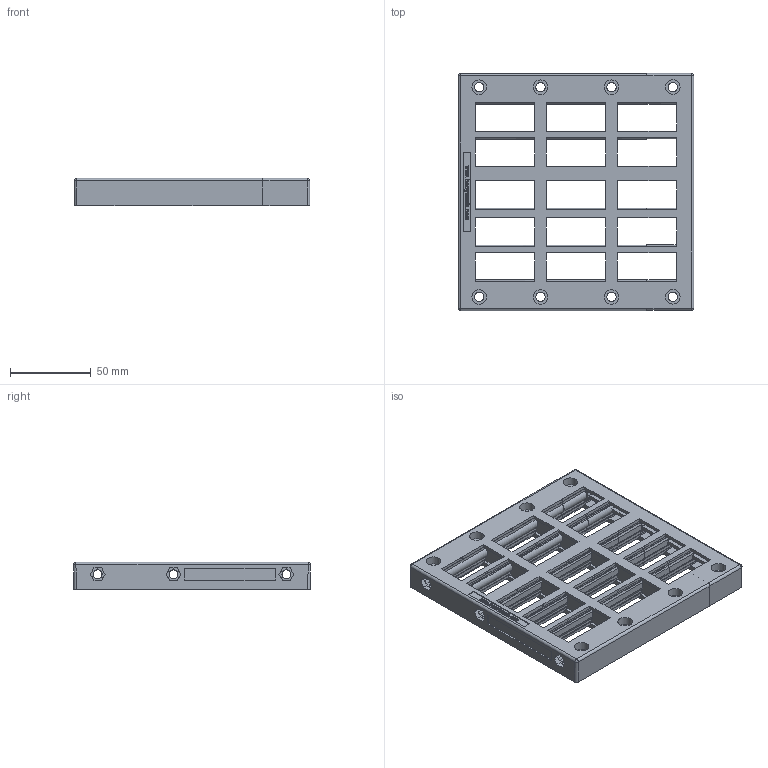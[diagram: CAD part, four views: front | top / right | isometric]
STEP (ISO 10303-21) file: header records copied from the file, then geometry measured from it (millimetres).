
FILE_DESCRIPTION(/* description */ (''),/* implementation_level */ '2;1');
FILE_NAME(/* name */ 'KEL 24_30-2MT.stp',/* time_stamp */ '2024-03-26T19:03:40+08:00',/* author */ (''),/* organization */ (''),/* preprocessor_version */ 'ST-DEVELOPER v16.7',/* originating_system */ 'SIEMENS PLM Software NX 12.0',/* authorisation */ '');
FILE_SCHEMA (('AP203_CONFIGURATION_CONTROLLED_3D_DESIGN_OF_MECHANICAL_PARTS_AND_ASSEMBLIES_MIM_LF { 1 0 10303 403 2 1 2}'));
Products named in the file (1): Admi21CC4537yb70
Bounding box: 146 x 147.06 x 17 mm (x, y, z)
Volume: 134740.8 mm3; surface area: 92073.9 mm2
Topology: 1 solids, 16 shells, 1835 faces, 5399 edges, 3615 vertices
Faces by surface type: plane 1210, cylinder 281, extrusion 137, cone 90, bspline 56, torus 33, sphere 28
Full cylindrical faces by diameter (mm): 3 x4, 5.5 x6, 5.8 x8, 9 x11
Entity records: 65876 total; most frequent: CARTESIAN_POINT 19256, ORIENTED_EDGE 10636, DIRECTION 8207, EDGE_CURVE 5318, VERTEX_POINT 3597, VECTOR 3039, LINE 2902, AXIS2_PLACEMENT_3D 2584
